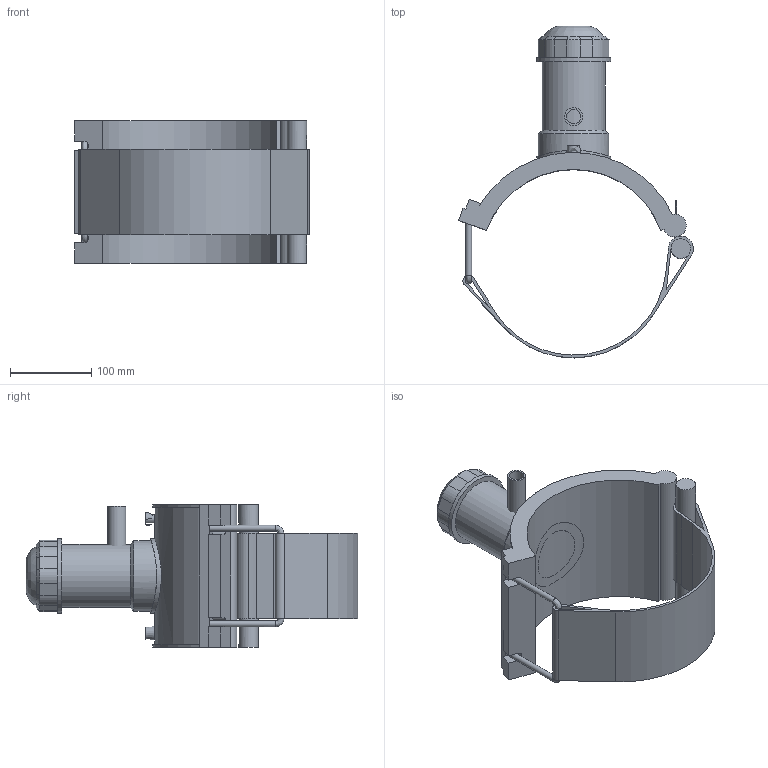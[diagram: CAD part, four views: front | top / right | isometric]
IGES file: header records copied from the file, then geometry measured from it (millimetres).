
Global section: file name: 5963DUP3080007.ipt; native system: Autodesk Inventor 2019; preprocessor: unknown; author: KIM; date: 20210830.101721; units: inch
Bounding box: 289.75 x 409.37 x 176.02 mm (x, y, z)
Volume: 1976645.8 mm3; surface area: 373591.5 mm2
Topology: 4 solids, 4 shells, 125 faces, 305 edges, 196 vertices
Faces by surface type: plane 69, cylinder 30, revolution 13, cone 13
Full cylindrical faces by diameter (mm): 4 x2, 7.325 x2, 22.1 x1, 24.123 x1, 77.826 x1, 86.982 x1, 91.56 x2
